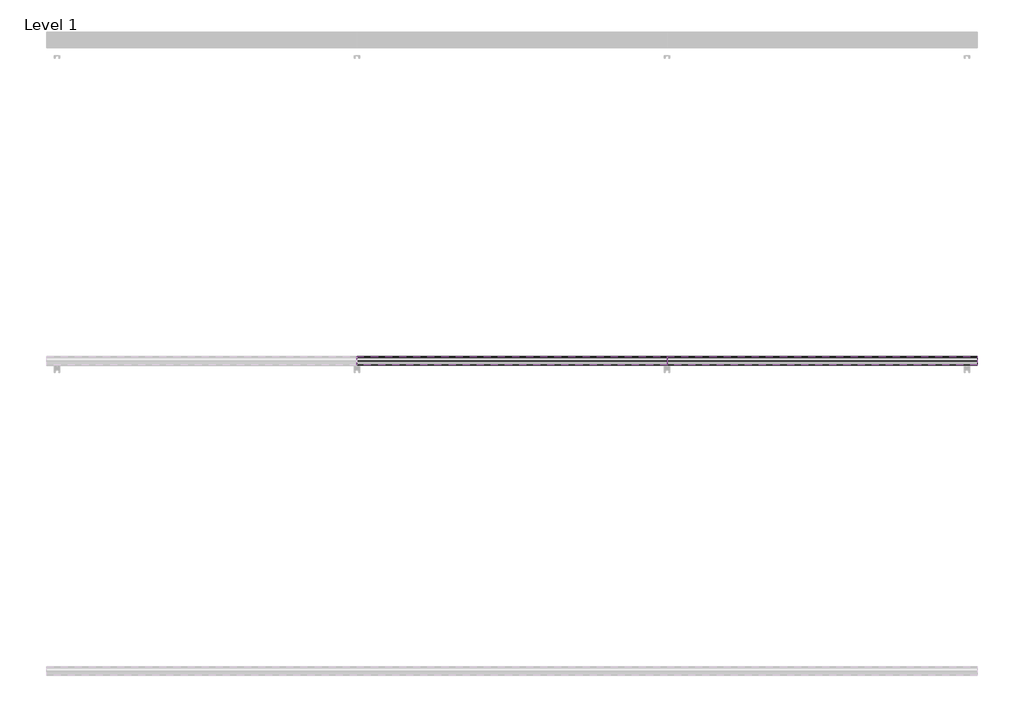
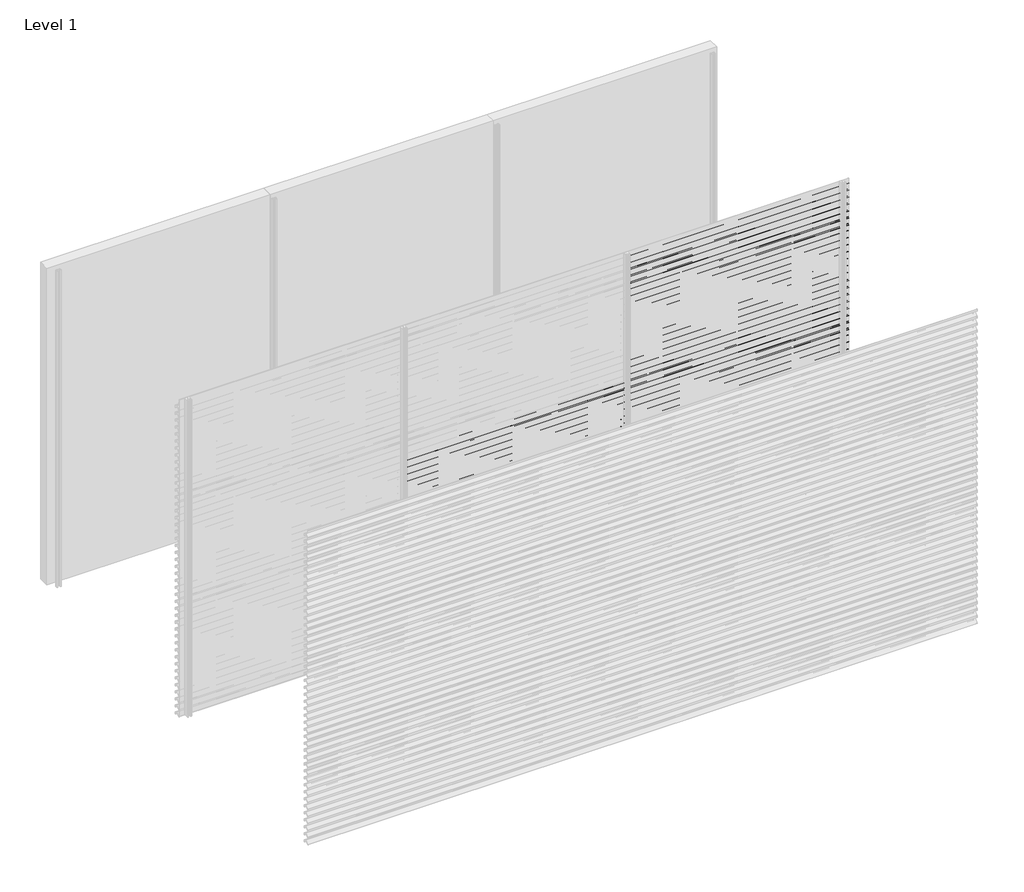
# One storey, part 22 of 27: 71 proxies.
"""IFC4 building model written with IfcOpenShell, lengths in millimetres."""

from ifc_helpers import new_model, si_unit, frame, origin, place, context, project, spatial, polyline, outline, extrude, element, save

model = new_model("IFC4")

# Units and contexts
model_context = context("Model", 3, world=origin())
ifc_project = project(units=[si_unit("LENGTHUNIT", "METRE", prefix="MILLI")], contexts=[model_context])

# Site, building, storey
site = spatial("IfcSite", under=ifc_project)
building = spatial("IfcBuilding", under=site)
storey = spatial("IfcBuildingStorey", under=building, Name="Level 1", Elevation=0.0)

# Proxies
placement = place(None, origin())
element("IfcBuildingElementProxy", 1, Name="Wall Sweeps", at=placement, inside=storey, context=model_context, shape_type="SweptSolid", body=[
    extrude(outline(polyline([(-11943.0, 1725.2), (-11943.0, 1705.5), (-11944.25, 1706.5866084), (-11944.25, 1724.4872415), (-11963.0322086, 1737.6010889), (-11995.1332975, 1705.5), (-11996.0525363, 1706.4192388), (-11964.1148087, 1738.3569665), (-11998.0, 1762.0158044), (-11998.0, 1782.0), (-11996.75, 1782.0), (-11996.75, 1762.7285629), (-11943.0, 1725.2)])), frame((2000.0, 0.0, 0.0), z_axis=(1.0, 0.0, 0.0), x_axis=(0.0, 1.0, 0.0)), (0.0, 0.0, 1.0), 2000.0),
])
element("IfcBuildingElementProxy", 2, Name="Wall Sweeps", at=placement, inside=storey, context=model_context, shape_type="SweptSolid", body=[
    extrude(outline(polyline([(-11943.0, 1659.2), (-11943.0, 1639.5), (-11944.25, 1640.5866084), (-11944.25, 1658.4872415), (-11963.0322086, 1671.6010889), (-11995.1332975, 1639.5), (-11996.0525363, 1640.4192388), (-11964.1148087, 1672.3569665), (-11998.0, 1696.0158044), (-11998.0, 1716.0), (-11996.75, 1716.0), (-11996.75, 1696.7285629), (-11943.0, 1659.2)])), frame((2000.0, 0.0, 0.0), z_axis=(1.0, 0.0, 0.0), x_axis=(0.0, 1.0, 0.0)), (0.0, 0.0, 1.0), 2000.0),
])
element("IfcBuildingElementProxy", 3, Name="Wall Sweeps", at=placement, inside=storey, context=model_context, shape_type="SweptSolid", body=[
    extrude(outline(polyline([(-11943.0, 1593.2), (-11943.0, 1573.5), (-11944.25, 1574.5866084), (-11944.25, 1592.4872415), (-11963.0322086, 1605.6010889), (-11995.1332975, 1573.5), (-11996.0525363, 1574.4192388), (-11964.1148087, 1606.3569665), (-11998.0, 1630.0158044), (-11998.0, 1650.0), (-11996.75, 1650.0), (-11996.75, 1630.7285629), (-11943.0, 1593.2)])), frame((2000.0, 0.0, 0.0), z_axis=(1.0, 0.0, 0.0), x_axis=(0.0, 1.0, 0.0)), (0.0, 0.0, 1.0), 2000.0),
])
element("IfcBuildingElementProxy", 4, Name="Wall Sweeps", at=placement, inside=storey, context=model_context, shape_type="SweptSolid", body=[
    extrude(outline(polyline([(-11943.0, 1527.2), (-11943.0, 1507.5), (-11944.25, 1508.5866084), (-11944.25, 1526.4872415), (-11963.0322086, 1539.6010889), (-11995.1332975, 1507.5), (-11996.0525363, 1508.4192388), (-11964.1148087, 1540.3569665), (-11998.0, 1564.0158044), (-11998.0, 1584.0), (-11996.75, 1584.0), (-11996.75, 1564.7285629), (-11943.0, 1527.2)])), frame((2000.0, 0.0, 0.0), z_axis=(1.0, 0.0, 0.0), x_axis=(0.0, 1.0, 0.0)), (0.0, 0.0, 1.0), 2000.0),
])
element("IfcBuildingElementProxy", 5, Name="Wall Sweeps", at=placement, inside=storey, context=model_context, shape_type="SweptSolid", body=[
    extrude(outline(polyline([(-11943.0, 1461.2), (-11943.0, 1441.5), (-11944.25, 1442.5866084), (-11944.25, 1460.4872415), (-11963.0322086, 1473.6010889), (-11995.1332975, 1441.5), (-11996.0525363, 1442.4192388), (-11964.1148087, 1474.3569665), (-11998.0, 1498.0158044), (-11998.0, 1518.0), (-11996.75, 1518.0), (-11996.75, 1498.7285629), (-11943.0, 1461.2)])), frame((2000.0, 0.0, 0.0), z_axis=(1.0, 0.0, 0.0), x_axis=(0.0, 1.0, 0.0)), (0.0, 0.0, 1.0), 2000.0),
])
element("IfcBuildingElementProxy", 6, Name="Wall Sweeps", at=placement, inside=storey, context=model_context, shape_type="SweptSolid", body=[
    extrude(outline(polyline([(-11943.0, 1395.2), (-11943.0, 1375.5), (-11944.25, 1376.5866084), (-11944.25, 1394.4872415), (-11963.0322086, 1407.6010889), (-11995.1332975, 1375.5), (-11996.0525363, 1376.4192388), (-11964.1148087, 1408.3569665), (-11998.0, 1432.0158044), (-11998.0, 1452.0), (-11996.75, 1452.0), (-11996.75, 1432.7285629), (-11943.0, 1395.2)])), frame((2000.0, 0.0, 0.0), z_axis=(1.0, 0.0, 0.0), x_axis=(0.0, 1.0, 0.0)), (0.0, 0.0, 1.0), 2000.0),
])
element("IfcBuildingElementProxy", 7, Name="Wall Sweeps", at=placement, inside=storey, context=model_context, shape_type="SweptSolid", body=[
    extrude(outline(polyline([(-11943.0, 1329.2), (-11943.0, 1309.5), (-11944.25, 1310.5866084), (-11944.25, 1328.4872415), (-11963.0322086, 1341.6010889), (-11995.1332975, 1309.5), (-11996.0525363, 1310.4192388), (-11964.1148087, 1342.3569665), (-11998.0, 1366.0158044), (-11998.0, 1386.0), (-11996.75, 1386.0), (-11996.75, 1366.7285629), (-11943.0, 1329.2)])), frame((2000.0, 0.0, 0.0), z_axis=(1.0, 0.0, 0.0), x_axis=(0.0, 1.0, 0.0)), (0.0, 0.0, 1.0), 2000.0),
])
element("IfcBuildingElementProxy", 8, Name="Wall Sweeps", at=placement, inside=storey, context=model_context, shape_type="SweptSolid", body=[
    extrude(outline(polyline([(-11943.0, 1263.2), (-11943.0, 1243.5), (-11944.25, 1244.5866084), (-11944.25, 1262.4872415), (-11963.0322086, 1275.6010889), (-11995.1332975, 1243.5), (-11996.0525363, 1244.4192388), (-11964.1148087, 1276.3569665), (-11998.0, 1300.0158044), (-11998.0, 1320.0), (-11996.75, 1320.0), (-11996.75, 1300.7285629), (-11943.0, 1263.2)])), frame((2000.0, 0.0, 0.0), z_axis=(1.0, 0.0, 0.0), x_axis=(0.0, 1.0, 0.0)), (0.0, 0.0, 1.0), 2000.0),
])
element("IfcBuildingElementProxy", 9, Name="Wall Sweeps", at=placement, inside=storey, context=model_context, shape_type="SweptSolid", body=[
    extrude(outline(polyline([(-11943.0, 1197.2), (-11943.0, 1177.5), (-11944.25, 1178.5866084), (-11944.25, 1196.4872415), (-11963.0322086, 1209.6010889), (-11995.1332975, 1177.5), (-11996.0525363, 1178.4192388), (-11964.1148087, 1210.3569665), (-11998.0, 1234.0158044), (-11998.0, 1254.0), (-11996.75, 1254.0), (-11996.75, 1234.7285629), (-11943.0, 1197.2)])), frame((2000.0, 0.0, 0.0), z_axis=(1.0, 0.0, 0.0), x_axis=(0.0, 1.0, 0.0)), (0.0, 0.0, 1.0), 2000.0),
])
element("IfcBuildingElementProxy", 10, Name="Wall Sweeps", at=placement, inside=storey, context=model_context, shape_type="SweptSolid", body=[
    extrude(outline(polyline([(-11943.0, 1131.2), (-11943.0, 1111.5), (-11944.25, 1112.5866084), (-11944.25, 1130.4872415), (-11963.0322086, 1143.6010889), (-11995.1332975, 1111.5), (-11996.0525363, 1112.4192388), (-11964.1148087, 1144.3569665), (-11998.0, 1168.0158044), (-11998.0, 1188.0), (-11996.75, 1188.0), (-11996.75, 1168.7285629), (-11943.0, 1131.2)])), frame((2000.0, 0.0, 0.0), z_axis=(1.0, 0.0, 0.0), x_axis=(0.0, 1.0, 0.0)), (0.0, 0.0, 1.0), 2000.0),
])
element("IfcBuildingElementProxy", 11, Name="Wall Sweeps", at=placement, inside=storey, context=model_context, shape_type="SweptSolid", body=[
    extrude(outline(polyline([(-11943.0, 1065.2), (-11943.0, 1045.5), (-11944.25, 1046.5866084), (-11944.25, 1064.4872415), (-11963.0322086, 1077.6010889), (-11995.1332975, 1045.5), (-11996.0525363, 1046.4192388), (-11964.1148087, 1078.3569665), (-11998.0, 1102.0158044), (-11998.0, 1122.0), (-11996.75, 1122.0), (-11996.75, 1102.7285629), (-11943.0, 1065.2)])), frame((2000.0, 0.0, 0.0), z_axis=(1.0, 0.0, 0.0), x_axis=(0.0, 1.0, 0.0)), (0.0, 0.0, 1.0), 2000.0),
])
element("IfcBuildingElementProxy", 12, Name="Wall Sweeps", at=placement, inside=storey, context=model_context, shape_type="SweptSolid", body=[
    extrude(outline(polyline([(-11943.0, 999.2), (-11943.0, 979.5), (-11944.25, 980.5866084), (-11944.25, 998.4872415), (-11963.0322086, 1011.6010889), (-11995.1332975, 979.5), (-11996.0525363, 980.4192388), (-11964.1148087, 1012.3569665), (-11998.0, 1036.0158044), (-11998.0, 1056.0), (-11996.75, 1056.0), (-11996.75, 1036.7285629), (-11943.0, 999.2)])), frame((2000.0, 0.0, 0.0), z_axis=(1.0, 0.0, 0.0), x_axis=(0.0, 1.0, 0.0)), (0.0, 0.0, 1.0), 2000.0),
])
element("IfcBuildingElementProxy", 13, Name="Wall Sweeps", at=placement, inside=storey, context=model_context, shape_type="SweptSolid", body=[
    extrude(outline(polyline([(-11943.0, 933.2), (-11943.0, 913.5), (-11944.25, 914.5866084), (-11944.25, 932.4872415), (-11963.0322086, 945.6010889), (-11995.1332975, 913.5), (-11996.0525363, 914.4192388), (-11964.1148087, 946.3569665), (-11998.0, 970.0158044), (-11998.0, 990.0), (-11996.75, 990.0), (-11996.75, 970.7285629), (-11943.0, 933.2)])), frame((2000.0, 0.0, 0.0), z_axis=(1.0, 0.0, 0.0), x_axis=(0.0, 1.0, 0.0)), (0.0, 0.0, 1.0), 2000.0),
])
element("IfcBuildingElementProxy", 14, Name="Wall Sweeps", at=placement, inside=storey, context=model_context, shape_type="SweptSolid", body=[
    extrude(outline(polyline([(-11943.0, 867.2), (-11943.0, 847.5), (-11944.25, 848.5866084), (-11944.25, 866.4872415), (-11963.0322086, 879.6010889), (-11995.1332975, 847.5), (-11996.0525363, 848.4192388), (-11964.1148087, 880.3569665), (-11998.0, 904.0158044), (-11998.0, 924.0), (-11996.75, 924.0), (-11996.75, 904.7285629), (-11943.0, 867.2)])), frame((2000.0, 0.0, 0.0), z_axis=(1.0, 0.0, 0.0), x_axis=(0.0, 1.0, 0.0)), (0.0, 0.0, 1.0), 2000.0),
])
element("IfcBuildingElementProxy", 15, Name="Wall Sweeps", at=placement, inside=storey, context=model_context, shape_type="SweptSolid", body=[
    extrude(outline(polyline([(-11943.0, 801.2), (-11943.0, 781.5), (-11944.25, 782.5866084), (-11944.25, 800.4872415), (-11963.0322086, 813.6010889), (-11995.1332975, 781.5), (-11996.0525363, 782.4192388), (-11964.1148087, 814.3569665), (-11998.0, 838.0158044), (-11998.0, 858.0), (-11996.75, 858.0), (-11996.75, 838.7285629), (-11943.0, 801.2)])), frame((2000.0, 0.0, 0.0), z_axis=(1.0, 0.0, 0.0), x_axis=(0.0, 1.0, 0.0)), (0.0, 0.0, 1.0), 2000.0),
])
element("IfcBuildingElementProxy", 16, Name="Wall Sweeps", at=placement, inside=storey, context=model_context, shape_type="SweptSolid", body=[
    extrude(outline(polyline([(-11943.0, 735.2), (-11943.0, 715.5), (-11944.25, 716.5866084), (-11944.25, 734.4872415), (-11963.0322086, 747.6010889), (-11995.1332975, 715.5), (-11996.0525363, 716.4192388), (-11964.1148087, 748.3569665), (-11998.0, 772.0158044), (-11998.0, 792.0), (-11996.75, 792.0), (-11996.75, 772.7285629), (-11943.0, 735.2)])), frame((2000.0, 0.0, 0.0), z_axis=(1.0, 0.0, 0.0), x_axis=(0.0, 1.0, 0.0)), (0.0, 0.0, 1.0), 2000.0),
])
element("IfcBuildingElementProxy", 17, Name="Wall Sweeps", at=placement, inside=storey, context=model_context, shape_type="SweptSolid", body=[
    extrude(outline(polyline([(-11943.0, 669.2), (-11943.0, 649.5), (-11944.25, 650.5866084), (-11944.25, 668.4872415), (-11963.0322086, 681.6010889), (-11995.1332975, 649.5), (-11996.0525363, 650.4192388), (-11964.1148087, 682.3569665), (-11998.0, 706.0158044), (-11998.0, 726.0), (-11996.75, 726.0), (-11996.75, 706.7285629), (-11943.0, 669.2)])), frame((2000.0, 0.0, 0.0), z_axis=(1.0, 0.0, 0.0), x_axis=(0.0, 1.0, 0.0)), (0.0, 0.0, 1.0), 2000.0),
])
element("IfcBuildingElementProxy", 18, Name="Wall Sweeps", at=placement, inside=storey, context=model_context, shape_type="SweptSolid", body=[
    extrude(outline(polyline([(-11943.0, 603.2), (-11943.0, 583.5), (-11944.25, 584.5866084), (-11944.25, 602.4872415), (-11963.0322086, 615.6010889), (-11995.1332975, 583.5), (-11996.0525363, 584.4192388), (-11964.1148087, 616.3569665), (-11998.0, 640.0158044), (-11998.0, 660.0), (-11996.75, 660.0), (-11996.75, 640.7285629), (-11943.0, 603.2)])), frame((2000.0, 0.0, 0.0), z_axis=(1.0, 0.0, 0.0), x_axis=(0.0, 1.0, 0.0)), (0.0, 0.0, 1.0), 2000.0),
])
element("IfcBuildingElementProxy", 19, Name="Wall Sweeps", at=placement, inside=storey, context=model_context, shape_type="SweptSolid", body=[
    extrude(outline(polyline([(-11943.0, 537.2), (-11943.0, 517.5), (-11944.25, 518.5866084), (-11944.25, 536.4872415), (-11963.0322086, 549.6010889), (-11995.1332975, 517.5), (-11996.0525363, 518.4192388), (-11964.1148087, 550.3569665), (-11998.0, 574.0158044), (-11998.0, 594.0), (-11996.75, 594.0), (-11996.75, 574.7285629), (-11943.0, 537.2)])), frame((2000.0, 0.0, 0.0), z_axis=(1.0, 0.0, 0.0), x_axis=(0.0, 1.0, 0.0)), (0.0, 0.0, 1.0), 2000.0),
])
element("IfcBuildingElementProxy", 20, Name="Wall Sweeps", at=placement, inside=storey, context=model_context, shape_type="SweptSolid", body=[
    extrude(outline(polyline([(-11943.0, 471.2), (-11943.0, 451.5), (-11944.25, 452.5866084), (-11944.25, 470.4872415), (-11963.0322086, 483.6010889), (-11995.1332975, 451.5), (-11996.0525363, 452.4192388), (-11964.1148087, 484.3569665), (-11998.0, 508.0158044), (-11998.0, 528.0), (-11996.75, 528.0), (-11996.75, 508.7285629), (-11943.0, 471.2)])), frame((2000.0, 0.0, 0.0), z_axis=(1.0, 0.0, 0.0), x_axis=(0.0, 1.0, 0.0)), (0.0, 0.0, 1.0), 2000.0),
])
element("IfcBuildingElementProxy", 21, Name="Wall Sweeps", at=placement, inside=storey, context=model_context, shape_type="SweptSolid", body=[
    extrude(outline(polyline([(-11943.0, 405.2), (-11943.0, 385.5), (-11944.25, 386.5866084), (-11944.25, 404.4872415), (-11963.0322086, 417.6010889), (-11995.1332975, 385.5), (-11996.0525363, 386.4192388), (-11964.1148087, 418.3569665), (-11998.0, 442.0158044), (-11998.0, 462.0), (-11996.75, 462.0), (-11996.75, 442.7285629), (-11943.0, 405.2)])), frame((2000.0, 0.0, 0.0), z_axis=(1.0, 0.0, 0.0), x_axis=(0.0, 1.0, 0.0)), (0.0, 0.0, 1.0), 2000.0),
])
element("IfcBuildingElementProxy", 22, Name="Wall Sweeps", at=placement, inside=storey, context=model_context, shape_type="SweptSolid", body=[
    extrude(outline(polyline([(-11943.0, 339.2), (-11943.0, 319.5), (-11944.25, 320.5866084), (-11944.25, 338.4872415), (-11963.0322086, 351.6010889), (-11995.1332975, 319.5), (-11996.0525363, 320.4192388), (-11964.1148087, 352.3569665), (-11998.0, 376.0158044), (-11998.0, 396.0), (-11996.75, 396.0), (-11996.75, 376.7285629), (-11943.0, 339.2)])), frame((2000.0, 0.0, 0.0), z_axis=(1.0, 0.0, 0.0), x_axis=(0.0, 1.0, 0.0)), (0.0, 0.0, 1.0), 2000.0),
])
element("IfcBuildingElementProxy", 23, Name="Wall Sweeps", at=placement, inside=storey, context=model_context, shape_type="SweptSolid", body=[
    extrude(outline(polyline([(-11943.0, 273.2), (-11943.0, 253.5), (-11944.25, 254.5866084), (-11944.25, 272.4872415), (-11963.0322086, 285.6010889), (-11995.1332975, 253.5), (-11996.0525363, 254.4192388), (-11964.1148087, 286.3569665), (-11998.0, 310.0158044), (-11998.0, 330.0), (-11996.75, 330.0), (-11996.75, 310.7285629), (-11943.0, 273.2)])), frame((2000.0, 0.0, 0.0), z_axis=(1.0, 0.0, 0.0), x_axis=(0.0, 1.0, 0.0)), (0.0, 0.0, 1.0), 2000.0),
])
element("IfcBuildingElementProxy", 24, Name="Wall Sweeps", at=placement, inside=storey, context=model_context, shape_type="SweptSolid", body=[
    extrude(outline(polyline([(-11943.0, 207.2), (-11943.0, 187.5), (-11944.25, 188.5866084), (-11944.25, 206.4872415), (-11963.0322086, 219.6010889), (-11995.1332975, 187.5), (-11996.0525363, 188.4192388), (-11964.1148087, 220.3569665), (-11998.0, 244.0158044), (-11998.0, 264.0), (-11996.75, 264.0), (-11996.75, 244.7285629), (-11943.0, 207.2)])), frame((2000.0, 0.0, 0.0), z_axis=(1.0, 0.0, 0.0), x_axis=(0.0, 1.0, 0.0)), (0.0, 0.0, 1.0), 2000.0),
])
element("IfcBuildingElementProxy", 25, Name="Wall Sweeps", at=placement, inside=storey, context=model_context, shape_type="SweptSolid", body=[
    extrude(outline(polyline([(-11943.0, 141.2), (-11943.0, 121.5), (-11944.25, 122.5866084), (-11944.25, 140.4872415), (-11963.0322086, 153.6010889), (-11995.1332975, 121.5), (-11996.0525363, 122.4192388), (-11964.1148087, 154.3569665), (-11998.0, 178.0158044), (-11998.0, 198.0), (-11996.75, 198.0), (-11996.75, 178.7285629), (-11943.0, 141.2)])), frame((2000.0, 0.0, 0.0), z_axis=(1.0, 0.0, 0.0), x_axis=(0.0, 1.0, 0.0)), (0.0, 0.0, 1.0), 2000.0),
])
element("IfcBuildingElementProxy", 26, Name="Wall Sweeps", at=placement, inside=storey, context=model_context, shape_type="SweptSolid", body=[
    extrude(outline(polyline([(-11943.0, 75.2), (-11943.0, 55.5), (-11944.25, 56.5866084), (-11944.25, 74.4872415), (-11963.0322086, 87.6010889), (-11995.1332975, 55.5), (-11996.0525363, 56.4192388), (-11964.1148087, 88.3569665), (-11998.0, 112.0158044), (-11998.0, 132.0), (-11996.75, 132.0), (-11996.75, 112.7285629), (-11943.0, 75.2)])), frame((2000.0, 0.0, 0.0), z_axis=(1.0, 0.0, 0.0), x_axis=(0.0, 1.0, 0.0)), (0.0, 0.0, 1.0), 2000.0),
])
element("IfcBuildingElementProxy", 27, Name="Wall Sweeps", at=placement, inside=storey, context=model_context, shape_type="SweptSolid", body=[
    extrude(outline(polyline([(-11943.0, 9.2), (-11943.0, -10.5), (-11944.25, -9.4133916), (-11944.25, 8.4872415), (-11963.0322086, 21.6010889), (-11995.1332975, -10.5), (-11996.0525363, -9.5807612), (-11964.1148087, 22.3569665), (-11998.0, 46.0158044), (-11998.0, 66.0), (-11996.75, 66.0), (-11996.75, 46.7285629), (-11943.0, 9.2)])), frame((2000.0, 0.0, 0.0), z_axis=(1.0, 0.0, 0.0), x_axis=(0.0, 1.0, 0.0)), (0.0, 0.0, 1.0), 2000.0),
])
element("IfcBuildingElementProxy", 28, Name="Wall Sweeps", at=placement, inside=storey, context=model_context, shape_type="SweptSolid", body=[
    extrude(outline(polyline([(-11943.0, 2913.2), (-11943.0, 2893.5), (-11944.25, 2894.5866084), (-11944.25, 2912.4872415), (-11963.0322086, 2925.6010889), (-11995.1332975, 2893.5), (-11996.0525363, 2894.4192388), (-11964.1148087, 2926.3569665), (-11998.0, 2950.0158044), (-11998.0, 2970.0), (-11996.75, 2970.0), (-11996.75, 2950.7285629), (-11943.0, 2913.2)])), frame((4000.0, 0.0, 0.0), z_axis=(1.0, 0.0, 0.0), x_axis=(0.0, 1.0, 0.0)), (0.0, 0.0, 1.0), 2000.0),
])
element("IfcBuildingElementProxy", 29, Name="Wall Sweeps", at=placement, inside=storey, context=model_context, shape_type="SweptSolid", body=[
    extrude(outline(polyline([(-11943.0, 2847.2), (-11943.0, 2827.5), (-11944.25, 2828.5866084), (-11944.25, 2846.4872415), (-11963.0322086, 2859.6010889), (-11995.1332975, 2827.5), (-11996.0525363, 2828.4192388), (-11964.1148087, 2860.3569665), (-11998.0, 2884.0158044), (-11998.0, 2904.0), (-11996.75, 2904.0), (-11996.75, 2884.7285629), (-11943.0, 2847.2)])), frame((4000.0, 0.0, 0.0), z_axis=(1.0, 0.0, 0.0), x_axis=(0.0, 1.0, 0.0)), (0.0, 0.0, 1.0), 2000.0),
])
element("IfcBuildingElementProxy", 30, Name="Wall Sweeps", at=placement, inside=storey, context=model_context, shape_type="SweptSolid", body=[
    extrude(outline(polyline([(-11943.0, 2781.2), (-11943.0, 2761.5), (-11944.25, 2762.5866084), (-11944.25, 2780.4872415), (-11963.0322086, 2793.6010889), (-11995.1332975, 2761.5), (-11996.0525363, 2762.4192388), (-11964.1148087, 2794.3569665), (-11998.0, 2818.0158044), (-11998.0, 2838.0), (-11996.75, 2838.0), (-11996.75, 2818.7285629), (-11943.0, 2781.2)])), frame((4000.0, 0.0, 0.0), z_axis=(1.0, 0.0, 0.0), x_axis=(0.0, 1.0, 0.0)), (0.0, 0.0, 1.0), 2000.0),
])
element("IfcBuildingElementProxy", 31, Name="Wall Sweeps", at=placement, inside=storey, context=model_context, shape_type="SweptSolid", body=[
    extrude(outline(polyline([(-11943.0, 2715.2), (-11943.0, 2695.5), (-11944.25, 2696.5866084), (-11944.25, 2714.4872415), (-11963.0322086, 2727.6010889), (-11995.1332975, 2695.5), (-11996.0525363, 2696.4192388), (-11964.1148087, 2728.3569665), (-11998.0, 2752.0158044), (-11998.0, 2772.0), (-11996.75, 2772.0), (-11996.75, 2752.7285629), (-11943.0, 2715.2)])), frame((4000.0, 0.0, 0.0), z_axis=(1.0, 0.0, 0.0), x_axis=(0.0, 1.0, 0.0)), (0.0, 0.0, 1.0), 2000.0),
])
element("IfcBuildingElementProxy", 32, Name="Wall Sweeps", at=placement, inside=storey, context=model_context, shape_type="SweptSolid", body=[
    extrude(outline(polyline([(-11943.0, 2649.2), (-11943.0, 2629.5), (-11944.25, 2630.5866084), (-11944.25, 2648.4872415), (-11963.0322086, 2661.6010889), (-11995.1332975, 2629.5), (-11996.0525363, 2630.4192388), (-11964.1148087, 2662.3569665), (-11998.0, 2686.0158044), (-11998.0, 2706.0), (-11996.75, 2706.0), (-11996.75, 2686.7285629), (-11943.0, 2649.2)])), frame((4000.0, 0.0, 0.0), z_axis=(1.0, 0.0, 0.0), x_axis=(0.0, 1.0, 0.0)), (0.0, 0.0, 1.0), 2000.0),
])
element("IfcBuildingElementProxy", 33, Name="Wall Sweeps", at=placement, inside=storey, context=model_context, shape_type="SweptSolid", body=[
    extrude(outline(polyline([(-11943.0, 2583.2), (-11943.0, 2563.5), (-11944.25, 2564.5866084), (-11944.25, 2582.4872415), (-11963.0322086, 2595.6010889), (-11995.1332975, 2563.5), (-11996.0525363, 2564.4192388), (-11964.1148087, 2596.3569665), (-11998.0, 2620.0158044), (-11998.0, 2640.0), (-11996.75, 2640.0), (-11996.75, 2620.7285629), (-11943.0, 2583.2)])), frame((4000.0, 0.0, 0.0), z_axis=(1.0, 0.0, 0.0), x_axis=(0.0, 1.0, 0.0)), (0.0, 0.0, 1.0), 2000.0),
])
element("IfcBuildingElementProxy", 34, Name="Wall Sweeps", at=placement, inside=storey, context=model_context, shape_type="SweptSolid", body=[
    extrude(outline(polyline([(-11943.0, 2517.2), (-11943.0, 2497.5), (-11944.25, 2498.5866084), (-11944.25, 2516.4872415), (-11963.0322086, 2529.6010889), (-11995.1332975, 2497.5), (-11996.0525363, 2498.4192388), (-11964.1148087, 2530.3569665), (-11998.0, 2554.0158044), (-11998.0, 2574.0), (-11996.75, 2574.0), (-11996.75, 2554.7285629), (-11943.0, 2517.2)])), frame((4000.0, 0.0, 0.0), z_axis=(1.0, 0.0, 0.0), x_axis=(0.0, 1.0, 0.0)), (0.0, 0.0, 1.0), 2000.0),
])
element("IfcBuildingElementProxy", 35, Name="Wall Sweeps", at=placement, inside=storey, context=model_context, shape_type="SweptSolid", body=[
    extrude(outline(polyline([(-11943.0, 2451.2), (-11943.0, 2431.5), (-11944.25, 2432.5866084), (-11944.25, 2450.4872415), (-11963.0322086, 2463.6010889), (-11995.1332975, 2431.5), (-11996.0525363, 2432.4192388), (-11964.1148087, 2464.3569665), (-11998.0, 2488.0158044), (-11998.0, 2508.0), (-11996.75, 2508.0), (-11996.75, 2488.7285629), (-11943.0, 2451.2)])), frame((4000.0, 0.0, 0.0), z_axis=(1.0, 0.0, 0.0), x_axis=(0.0, 1.0, 0.0)), (0.0, 0.0, 1.0), 2000.0),
])
element("IfcBuildingElementProxy", 36, Name="Wall Sweeps", at=placement, inside=storey, context=model_context, shape_type="SweptSolid", body=[
    extrude(outline(polyline([(-11943.0, 2385.2), (-11943.0, 2365.5), (-11944.25, 2366.5866084), (-11944.25, 2384.4872415), (-11963.0322086, 2397.6010889), (-11995.1332975, 2365.5), (-11996.0525363, 2366.4192388), (-11964.1148087, 2398.3569665), (-11998.0, 2422.0158044), (-11998.0, 2442.0), (-11996.75, 2442.0), (-11996.75, 2422.7285629), (-11943.0, 2385.2)])), frame((4000.0, 0.0, 0.0), z_axis=(1.0, 0.0, 0.0), x_axis=(0.0, 1.0, 0.0)), (0.0, 0.0, 1.0), 2000.0),
])
element("IfcBuildingElementProxy", 37, Name="Wall Sweeps", at=placement, inside=storey, context=model_context, shape_type="SweptSolid", body=[
    extrude(outline(polyline([(-11943.0, 2319.2), (-11943.0, 2299.5), (-11944.25, 2300.5866084), (-11944.25, 2318.4872415), (-11963.0322086, 2331.6010889), (-11995.1332975, 2299.5), (-11996.0525363, 2300.4192388), (-11964.1148087, 2332.3569665), (-11998.0, 2356.0158044), (-11998.0, 2376.0), (-11996.75, 2376.0), (-11996.75, 2356.7285629), (-11943.0, 2319.2)])), frame((4000.0, 0.0, 0.0), z_axis=(1.0, 0.0, 0.0), x_axis=(0.0, 1.0, 0.0)), (0.0, 0.0, 1.0), 2000.0),
])
element("IfcBuildingElementProxy", 38, Name="Wall Sweeps", at=placement, inside=storey, context=model_context, shape_type="SweptSolid", body=[
    extrude(outline(polyline([(-11943.0, 2253.2), (-11943.0, 2233.5), (-11944.25, 2234.5866084), (-11944.25, 2252.4872415), (-11963.0322086, 2265.6010889), (-11995.1332975, 2233.5), (-11996.0525363, 2234.4192388), (-11964.1148087, 2266.3569665), (-11998.0, 2290.0158044), (-11998.0, 2310.0), (-11996.75, 2310.0), (-11996.75, 2290.7285629), (-11943.0, 2253.2)])), frame((4000.0, 0.0, 0.0), z_axis=(1.0, 0.0, 0.0), x_axis=(0.0, 1.0, 0.0)), (0.0, 0.0, 1.0), 2000.0),
])
element("IfcBuildingElementProxy", 39, Name="Wall Sweeps", at=placement, inside=storey, context=model_context, shape_type="SweptSolid", body=[
    extrude(outline(polyline([(-11943.0, 2187.2), (-11943.0, 2167.5), (-11944.25, 2168.5866084), (-11944.25, 2186.4872415), (-11963.0322086, 2199.6010889), (-11995.1332975, 2167.5), (-11996.0525363, 2168.4192388), (-11964.1148087, 2200.3569665), (-11998.0, 2224.0158044), (-11998.0, 2244.0), (-11996.75, 2244.0), (-11996.75, 2224.7285629), (-11943.0, 2187.2)])), frame((4000.0, 0.0, 0.0), z_axis=(1.0, 0.0, 0.0), x_axis=(0.0, 1.0, 0.0)), (0.0, 0.0, 1.0), 2000.0),
])
element("IfcBuildingElementProxy", 40, Name="Wall Sweeps", at=placement, inside=storey, context=model_context, shape_type="SweptSolid", body=[
    extrude(outline(polyline([(-11943.0, 2121.2), (-11943.0, 2101.5), (-11944.25, 2102.5866084), (-11944.25, 2120.4872415), (-11963.0322086, 2133.6010889), (-11995.1332975, 2101.5), (-11996.0525363, 2102.4192388), (-11964.1148087, 2134.3569665), (-11998.0, 2158.0158044), (-11998.0, 2178.0), (-11996.75, 2178.0), (-11996.75, 2158.7285629), (-11943.0, 2121.2)])), frame((4000.0, 0.0, 0.0), z_axis=(1.0, 0.0, 0.0), x_axis=(0.0, 1.0, 0.0)), (0.0, 0.0, 1.0), 2000.0),
])
element("IfcBuildingElementProxy", 41, Name="Wall Sweeps", at=placement, inside=storey, context=model_context, shape_type="SweptSolid", body=[
    extrude(outline(polyline([(-11943.0, 2055.2), (-11943.0, 2035.5), (-11944.25, 2036.5866084), (-11944.25, 2054.4872415), (-11963.0322086, 2067.6010889), (-11995.1332975, 2035.5), (-11996.0525363, 2036.4192388), (-11964.1148087, 2068.3569665), (-11998.0, 2092.0158044), (-11998.0, 2112.0), (-11996.75, 2112.0), (-11996.75, 2092.7285629), (-11943.0, 2055.2)])), frame((4000.0, 0.0, 0.0), z_axis=(1.0, 0.0, 0.0), x_axis=(0.0, 1.0, 0.0)), (0.0, 0.0, 1.0), 2000.0),
])
element("IfcBuildingElementProxy", 42, Name="Wall Sweeps", at=placement, inside=storey, context=model_context, shape_type="SweptSolid", body=[
    extrude(outline(polyline([(-11943.0, 1989.2), (-11943.0, 1969.5), (-11944.25, 1970.5866084), (-11944.25, 1988.4872415), (-11963.0322086, 2001.6010889), (-11995.1332975, 1969.5), (-11996.0525363, 1970.4192388), (-11964.1148087, 2002.3569665), (-11998.0, 2026.0158044), (-11998.0, 2046.0), (-11996.75, 2046.0), (-11996.75, 2026.7285629), (-11943.0, 1989.2)])), frame((4000.0, 0.0, 0.0), z_axis=(1.0, 0.0, 0.0), x_axis=(0.0, 1.0, 0.0)), (0.0, 0.0, 1.0), 2000.0),
])
element("IfcBuildingElementProxy", 43, Name="Wall Sweeps", at=placement, inside=storey, context=model_context, shape_type="SweptSolid", body=[
    extrude(outline(polyline([(-11943.0, 1923.2), (-11943.0, 1903.5), (-11944.25, 1904.5866084), (-11944.25, 1922.4872415), (-11963.0322086, 1935.6010889), (-11995.1332975, 1903.5), (-11996.0525363, 1904.4192388), (-11964.1148087, 1936.3569665), (-11998.0, 1960.0158044), (-11998.0, 1980.0), (-11996.75, 1980.0), (-11996.75, 1960.7285629), (-11943.0, 1923.2)])), frame((4000.0, 0.0, 0.0), z_axis=(1.0, 0.0, 0.0), x_axis=(0.0, 1.0, 0.0)), (0.0, 0.0, 1.0), 2000.0),
])
element("IfcBuildingElementProxy", 44, Name="Wall Sweeps", at=placement, inside=storey, context=model_context, shape_type="SweptSolid", body=[
    extrude(outline(polyline([(-11943.0, 1857.2), (-11943.0, 1837.5), (-11944.25, 1838.5866084), (-11944.25, 1856.4872415), (-11963.0322086, 1869.6010889), (-11995.1332975, 1837.5), (-11996.0525363, 1838.4192388), (-11964.1148087, 1870.3569665), (-11998.0, 1894.0158044), (-11998.0, 1914.0), (-11996.75, 1914.0), (-11996.75, 1894.7285629), (-11943.0, 1857.2)])), frame((4000.0, 0.0, 0.0), z_axis=(1.0, 0.0, 0.0), x_axis=(0.0, 1.0, 0.0)), (0.0, 0.0, 1.0), 2000.0),
])
element("IfcBuildingElementProxy", 45, Name="Wall Sweeps", at=placement, inside=storey, context=model_context, shape_type="SweptSolid", body=[
    extrude(outline(polyline([(-11943.0, 1791.2), (-11943.0, 1771.5), (-11944.25, 1772.5866084), (-11944.25, 1790.4872415), (-11963.0322086, 1803.6010889), (-11995.1332975, 1771.5), (-11996.0525363, 1772.4192388), (-11964.1148087, 1804.3569665), (-11998.0, 1828.0158044), (-11998.0, 1848.0), (-11996.75, 1848.0), (-11996.75, 1828.7285629), (-11943.0, 1791.2)])), frame((4000.0, 0.0, 0.0), z_axis=(1.0, 0.0, 0.0), x_axis=(0.0, 1.0, 0.0)), (0.0, 0.0, 1.0), 2000.0),
])
element("IfcBuildingElementProxy", 46, Name="Wall Sweeps", at=placement, inside=storey, context=model_context, shape_type="SweptSolid", body=[
    extrude(outline(polyline([(-11943.0, 1725.2), (-11943.0, 1705.5), (-11944.25, 1706.5866084), (-11944.25, 1724.4872415), (-11963.0322086, 1737.6010889), (-11995.1332975, 1705.5), (-11996.0525363, 1706.4192388), (-11964.1148087, 1738.3569665), (-11998.0, 1762.0158044), (-11998.0, 1782.0), (-11996.75, 1782.0), (-11996.75, 1762.7285629), (-11943.0, 1725.2)])), frame((4000.0, 0.0, 0.0), z_axis=(1.0, 0.0, 0.0), x_axis=(0.0, 1.0, 0.0)), (0.0, 0.0, 1.0), 2000.0),
])
element("IfcBuildingElementProxy", 47, Name="Wall Sweeps", at=placement, inside=storey, context=model_context, shape_type="SweptSolid", body=[
    extrude(outline(polyline([(-11943.0, 1659.2), (-11943.0, 1639.5), (-11944.25, 1640.5866084), (-11944.25, 1658.4872415), (-11963.0322086, 1671.6010889), (-11995.1332975, 1639.5), (-11996.0525363, 1640.4192388), (-11964.1148087, 1672.3569665), (-11998.0, 1696.0158044), (-11998.0, 1716.0), (-11996.75, 1716.0), (-11996.75, 1696.7285629), (-11943.0, 1659.2)])), frame((4000.0, 0.0, 0.0), z_axis=(1.0, 0.0, 0.0), x_axis=(0.0, 1.0, 0.0)), (0.0, 0.0, 1.0), 2000.0),
])
element("IfcBuildingElementProxy", 48, Name="Wall Sweeps", at=placement, inside=storey, context=model_context, shape_type="SweptSolid", body=[
    extrude(outline(polyline([(-11943.0, 1593.2), (-11943.0, 1573.5), (-11944.25, 1574.5866084), (-11944.25, 1592.4872415), (-11963.0322086, 1605.6010889), (-11995.1332975, 1573.5), (-11996.0525363, 1574.4192388), (-11964.1148087, 1606.3569665), (-11998.0, 1630.0158044), (-11998.0, 1650.0), (-11996.75, 1650.0), (-11996.75, 1630.7285629), (-11943.0, 1593.2)])), frame((4000.0, 0.0, 0.0), z_axis=(1.0, 0.0, 0.0), x_axis=(0.0, 1.0, 0.0)), (0.0, 0.0, 1.0), 2000.0),
])
element("IfcBuildingElementProxy", 49, Name="Wall Sweeps", at=placement, inside=storey, context=model_context, shape_type="SweptSolid", body=[
    extrude(outline(polyline([(-11943.0, 1527.2), (-11943.0, 1507.5), (-11944.25, 1508.5866084), (-11944.25, 1526.4872415), (-11963.0322086, 1539.6010889), (-11995.1332975, 1507.5), (-11996.0525363, 1508.4192388), (-11964.1148087, 1540.3569665), (-11998.0, 1564.0158044), (-11998.0, 1584.0), (-11996.75, 1584.0), (-11996.75, 1564.7285629), (-11943.0, 1527.2)])), frame((4000.0, 0.0, 0.0), z_axis=(1.0, 0.0, 0.0), x_axis=(0.0, 1.0, 0.0)), (0.0, 0.0, 1.0), 2000.0),
])
element("IfcBuildingElementProxy", 50, Name="Wall Sweeps", at=placement, inside=storey, context=model_context, shape_type="SweptSolid", body=[
    extrude(outline(polyline([(-11943.0, 1461.2), (-11943.0, 1441.5), (-11944.25, 1442.5866084), (-11944.25, 1460.4872415), (-11963.0322086, 1473.6010889), (-11995.1332975, 1441.5), (-11996.0525363, 1442.4192388), (-11964.1148087, 1474.3569665), (-11998.0, 1498.0158044), (-11998.0, 1518.0), (-11996.75, 1518.0), (-11996.75, 1498.7285629), (-11943.0, 1461.2)])), frame((4000.0, 0.0, 0.0), z_axis=(1.0, 0.0, 0.0), x_axis=(0.0, 1.0, 0.0)), (0.0, 0.0, 1.0), 2000.0),
])
element("IfcBuildingElementProxy", 51, Name="Wall Sweeps", at=placement, inside=storey, context=model_context, shape_type="SweptSolid", body=[
    extrude(outline(polyline([(-11943.0, 1395.2), (-11943.0, 1375.5), (-11944.25, 1376.5866084), (-11944.25, 1394.4872415), (-11963.0322086, 1407.6010889), (-11995.1332975, 1375.5), (-11996.0525363, 1376.4192388), (-11964.1148087, 1408.3569665), (-11998.0, 1432.0158044), (-11998.0, 1452.0), (-11996.75, 1452.0), (-11996.75, 1432.7285629), (-11943.0, 1395.2)])), frame((4000.0, 0.0, 0.0), z_axis=(1.0, 0.0, 0.0), x_axis=(0.0, 1.0, 0.0)), (0.0, 0.0, 1.0), 2000.0),
])
element("IfcBuildingElementProxy", 52, Name="Wall Sweeps", at=placement, inside=storey, context=model_context, shape_type="SweptSolid", body=[
    extrude(outline(polyline([(-11943.0, 1329.2), (-11943.0, 1309.5), (-11944.25, 1310.5866084), (-11944.25, 1328.4872415), (-11963.0322086, 1341.6010889), (-11995.1332975, 1309.5), (-11996.0525363, 1310.4192388), (-11964.1148087, 1342.3569665), (-11998.0, 1366.0158044), (-11998.0, 1386.0), (-11996.75, 1386.0), (-11996.75, 1366.7285629), (-11943.0, 1329.2)])), frame((4000.0, 0.0, 0.0), z_axis=(1.0, 0.0, 0.0), x_axis=(0.0, 1.0, 0.0)), (0.0, 0.0, 1.0), 2000.0),
])
element("IfcBuildingElementProxy", 53, Name="Wall Sweeps", at=placement, inside=storey, context=model_context, shape_type="SweptSolid", body=[
    extrude(outline(polyline([(-11943.0, 1263.2), (-11943.0, 1243.5), (-11944.25, 1244.5866084), (-11944.25, 1262.4872415), (-11963.0322086, 1275.6010889), (-11995.1332975, 1243.5), (-11996.0525363, 1244.4192388), (-11964.1148087, 1276.3569665), (-11998.0, 1300.0158044), (-11998.0, 1320.0), (-11996.75, 1320.0), (-11996.75, 1300.7285629), (-11943.0, 1263.2)])), frame((4000.0, 0.0, 0.0), z_axis=(1.0, 0.0, 0.0), x_axis=(0.0, 1.0, 0.0)), (0.0, 0.0, 1.0), 2000.0),
])
element("IfcBuildingElementProxy", 54, Name="Wall Sweeps", at=placement, inside=storey, context=model_context, shape_type="SweptSolid", body=[
    extrude(outline(polyline([(-11943.0, 1197.2), (-11943.0, 1177.5), (-11944.25, 1178.5866084), (-11944.25, 1196.4872415), (-11963.0322086, 1209.6010889), (-11995.1332975, 1177.5), (-11996.0525363, 1178.4192388), (-11964.1148087, 1210.3569665), (-11998.0, 1234.0158044), (-11998.0, 1254.0), (-11996.75, 1254.0), (-11996.75, 1234.7285629), (-11943.0, 1197.2)])), frame((4000.0, 0.0, 0.0), z_axis=(1.0, 0.0, 0.0), x_axis=(0.0, 1.0, 0.0)), (0.0, 0.0, 1.0), 2000.0),
])
element("IfcBuildingElementProxy", 55, Name="Wall Sweeps", at=placement, inside=storey, context=model_context, shape_type="SweptSolid", body=[
    extrude(outline(polyline([(-11943.0, 1131.2), (-11943.0, 1111.5), (-11944.25, 1112.5866084), (-11944.25, 1130.4872415), (-11963.0322086, 1143.6010889), (-11995.1332975, 1111.5), (-11996.0525363, 1112.4192388), (-11964.1148087, 1144.3569665), (-11998.0, 1168.0158044), (-11998.0, 1188.0), (-11996.75, 1188.0), (-11996.75, 1168.7285629), (-11943.0, 1131.2)])), frame((4000.0, 0.0, 0.0), z_axis=(1.0, 0.0, 0.0), x_axis=(0.0, 1.0, 0.0)), (0.0, 0.0, 1.0), 2000.0),
])
element("IfcBuildingElementProxy", 56, Name="Wall Sweeps", at=placement, inside=storey, context=model_context, shape_type="SweptSolid", body=[
    extrude(outline(polyline([(-11943.0, 1065.2), (-11943.0, 1045.5), (-11944.25, 1046.5866084), (-11944.25, 1064.4872415), (-11963.0322086, 1077.6010889), (-11995.1332975, 1045.5), (-11996.0525363, 1046.4192388), (-11964.1148087, 1078.3569665), (-11998.0, 1102.0158044), (-11998.0, 1122.0), (-11996.75, 1122.0), (-11996.75, 1102.7285629), (-11943.0, 1065.2)])), frame((4000.0, 0.0, 0.0), z_axis=(1.0, 0.0, 0.0), x_axis=(0.0, 1.0, 0.0)), (0.0, 0.0, 1.0), 2000.0),
])
element("IfcBuildingElementProxy", 57, Name="Wall Sweeps", at=placement, inside=storey, context=model_context, shape_type="SweptSolid", body=[
    extrude(outline(polyline([(-11943.0, 999.2), (-11943.0, 979.5), (-11944.25, 980.5866084), (-11944.25, 998.4872415), (-11963.0322086, 1011.6010889), (-11995.1332975, 979.5), (-11996.0525363, 980.4192388), (-11964.1148087, 1012.3569665), (-11998.0, 1036.0158044), (-11998.0, 1056.0), (-11996.75, 1056.0), (-11996.75, 1036.7285629), (-11943.0, 999.2)])), frame((4000.0, 0.0, 0.0), z_axis=(1.0, 0.0, 0.0), x_axis=(0.0, 1.0, 0.0)), (0.0, 0.0, 1.0), 2000.0),
])
element("IfcBuildingElementProxy", 58, Name="Wall Sweeps", at=placement, inside=storey, context=model_context, shape_type="SweptSolid", body=[
    extrude(outline(polyline([(-11943.0, 933.2), (-11943.0, 913.5), (-11944.25, 914.5866084), (-11944.25, 932.4872415), (-11963.0322086, 945.6010889), (-11995.1332975, 913.5), (-11996.0525363, 914.4192388), (-11964.1148087, 946.3569665), (-11998.0, 970.0158044), (-11998.0, 990.0), (-11996.75, 990.0), (-11996.75, 970.7285629), (-11943.0, 933.2)])), frame((4000.0, 0.0, 0.0), z_axis=(1.0, 0.0, 0.0), x_axis=(0.0, 1.0, 0.0)), (0.0, 0.0, 1.0), 2000.0),
])
element("IfcBuildingElementProxy", 59, Name="Wall Sweeps", at=placement, inside=storey, context=model_context, shape_type="SweptSolid", body=[
    extrude(outline(polyline([(-11943.0, 867.2), (-11943.0, 847.5), (-11944.25, 848.5866084), (-11944.25, 866.4872415), (-11963.0322086, 879.6010889), (-11995.1332975, 847.5), (-11996.0525363, 848.4192388), (-11964.1148087, 880.3569665), (-11998.0, 904.0158044), (-11998.0, 924.0), (-11996.75, 924.0), (-11996.75, 904.7285629), (-11943.0, 867.2)])), frame((4000.0, 0.0, 0.0), z_axis=(1.0, 0.0, 0.0), x_axis=(0.0, 1.0, 0.0)), (0.0, 0.0, 1.0), 2000.0),
])
element("IfcBuildingElementProxy", 60, Name="Wall Sweeps", at=placement, inside=storey, context=model_context, shape_type="SweptSolid", body=[
    extrude(outline(polyline([(-11943.0, 801.2), (-11943.0, 781.5), (-11944.25, 782.5866084), (-11944.25, 800.4872415), (-11963.0322086, 813.6010889), (-11995.1332975, 781.5), (-11996.0525363, 782.4192388), (-11964.1148087, 814.3569665), (-11998.0, 838.0158044), (-11998.0, 858.0), (-11996.75, 858.0), (-11996.75, 838.7285629), (-11943.0, 801.2)])), frame((4000.0, 0.0, 0.0), z_axis=(1.0, 0.0, 0.0), x_axis=(0.0, 1.0, 0.0)), (0.0, 0.0, 1.0), 2000.0),
])
element("IfcBuildingElementProxy", 61, Name="Wall Sweeps", at=placement, inside=storey, context=model_context, shape_type="SweptSolid", body=[
    extrude(outline(polyline([(-11943.0, 735.2), (-11943.0, 715.5), (-11944.25, 716.5866084), (-11944.25, 734.4872415), (-11963.0322086, 747.6010889), (-11995.1332975, 715.5), (-11996.0525363, 716.4192388), (-11964.1148087, 748.3569665), (-11998.0, 772.0158044), (-11998.0, 792.0), (-11996.75, 792.0), (-11996.75, 772.7285629), (-11943.0, 735.2)])), frame((4000.0, 0.0, 0.0), z_axis=(1.0, 0.0, 0.0), x_axis=(0.0, 1.0, 0.0)), (0.0, 0.0, 1.0), 2000.0),
])
element("IfcBuildingElementProxy", 62, Name="Wall Sweeps", at=placement, inside=storey, context=model_context, shape_type="SweptSolid", body=[
    extrude(outline(polyline([(-11943.0, 669.2), (-11943.0, 649.5), (-11944.25, 650.5866084), (-11944.25, 668.4872415), (-11963.0322086, 681.6010889), (-11995.1332975, 649.5), (-11996.0525363, 650.4192388), (-11964.1148087, 682.3569665), (-11998.0, 706.0158044), (-11998.0, 726.0), (-11996.75, 726.0), (-11996.75, 706.7285629), (-11943.0, 669.2)])), frame((4000.0, 0.0, 0.0), z_axis=(1.0, 0.0, 0.0), x_axis=(0.0, 1.0, 0.0)), (0.0, 0.0, 1.0), 2000.0),
])
element("IfcBuildingElementProxy", 63, Name="Wall Sweeps", at=placement, inside=storey, context=model_context, shape_type="SweptSolid", body=[
    extrude(outline(polyline([(-11943.0, 603.2), (-11943.0, 583.5), (-11944.25, 584.5866084), (-11944.25, 602.4872415), (-11963.0322086, 615.6010889), (-11995.1332975, 583.5), (-11996.0525363, 584.4192388), (-11964.1148087, 616.3569665), (-11998.0, 640.0158044), (-11998.0, 660.0), (-11996.75, 660.0), (-11996.75, 640.7285629), (-11943.0, 603.2)])), frame((4000.0, 0.0, 0.0), z_axis=(1.0, 0.0, 0.0), x_axis=(0.0, 1.0, 0.0)), (0.0, 0.0, 1.0), 2000.0),
])
element("IfcBuildingElementProxy", 64, Name="Wall Sweeps", at=placement, inside=storey, context=model_context, shape_type="SweptSolid", body=[
    extrude(outline(polyline([(-11943.0, 537.2), (-11943.0, 517.5), (-11944.25, 518.5866084), (-11944.25, 536.4872415), (-11963.0322086, 549.6010889), (-11995.1332975, 517.5), (-11996.0525363, 518.4192388), (-11964.1148087, 550.3569665), (-11998.0, 574.0158044), (-11998.0, 594.0), (-11996.75, 594.0), (-11996.75, 574.7285629), (-11943.0, 537.2)])), frame((4000.0, 0.0, 0.0), z_axis=(1.0, 0.0, 0.0), x_axis=(0.0, 1.0, 0.0)), (0.0, 0.0, 1.0), 2000.0),
])
element("IfcBuildingElementProxy", 65, Name="Wall Sweeps", at=placement, inside=storey, context=model_context, shape_type="SweptSolid", body=[
    extrude(outline(polyline([(-11943.0, 471.2), (-11943.0, 451.5), (-11944.25, 452.5866084), (-11944.25, 470.4872415), (-11963.0322086, 483.6010889), (-11995.1332975, 451.5), (-11996.0525363, 452.4192388), (-11964.1148087, 484.3569665), (-11998.0, 508.0158044), (-11998.0, 528.0), (-11996.75, 528.0), (-11996.75, 508.7285629), (-11943.0, 471.2)])), frame((4000.0, 0.0, 0.0), z_axis=(1.0, 0.0, 0.0), x_axis=(0.0, 1.0, 0.0)), (0.0, 0.0, 1.0), 2000.0),
])
element("IfcBuildingElementProxy", 66, Name="Wall Sweeps", at=placement, inside=storey, context=model_context, shape_type="SweptSolid", body=[
    extrude(outline(polyline([(-11943.0, 405.2), (-11943.0, 385.5), (-11944.25, 386.5866084), (-11944.25, 404.4872415), (-11963.0322086, 417.6010889), (-11995.1332975, 385.5), (-11996.0525363, 386.4192388), (-11964.1148087, 418.3569665), (-11998.0, 442.0158044), (-11998.0, 462.0), (-11996.75, 462.0), (-11996.75, 442.7285629), (-11943.0, 405.2)])), frame((4000.0, 0.0, 0.0), z_axis=(1.0, 0.0, 0.0), x_axis=(0.0, 1.0, 0.0)), (0.0, 0.0, 1.0), 2000.0),
])
element("IfcBuildingElementProxy", 67, Name="Wall Sweeps", at=placement, inside=storey, context=model_context, shape_type="SweptSolid", body=[
    extrude(outline(polyline([(-11943.0, 339.2), (-11943.0, 319.5), (-11944.25, 320.5866084), (-11944.25, 338.4872415), (-11963.0322086, 351.6010889), (-11995.1332975, 319.5), (-11996.0525363, 320.4192388), (-11964.1148087, 352.3569665), (-11998.0, 376.0158044), (-11998.0, 396.0), (-11996.75, 396.0), (-11996.75, 376.7285629), (-11943.0, 339.2)])), frame((4000.0, 0.0, 0.0), z_axis=(1.0, 0.0, 0.0), x_axis=(0.0, 1.0, 0.0)), (0.0, 0.0, 1.0), 2000.0),
])
element("IfcBuildingElementProxy", 68, Name="Wall Sweeps", at=placement, inside=storey, context=model_context, shape_type="SweptSolid", body=[
    extrude(outline(polyline([(-11943.0, 273.2), (-11943.0, 253.5), (-11944.25, 254.5866084), (-11944.25, 272.4872415), (-11963.0322086, 285.6010889), (-11995.1332975, 253.5), (-11996.0525363, 254.4192388), (-11964.1148087, 286.3569665), (-11998.0, 310.0158044), (-11998.0, 330.0), (-11996.75, 330.0), (-11996.75, 310.7285629), (-11943.0, 273.2)])), frame((4000.0, 0.0, 0.0), z_axis=(1.0, 0.0, 0.0), x_axis=(0.0, 1.0, 0.0)), (0.0, 0.0, 1.0), 2000.0),
])
element("IfcBuildingElementProxy", 69, Name="Wall Sweeps", at=placement, inside=storey, context=model_context, shape_type="SweptSolid", body=[
    extrude(outline(polyline([(-11943.0, 207.2), (-11943.0, 187.5), (-11944.25, 188.5866084), (-11944.25, 206.4872415), (-11963.0322086, 219.6010889), (-11995.1332975, 187.5), (-11996.0525363, 188.4192388), (-11964.1148087, 220.3569665), (-11998.0, 244.0158044), (-11998.0, 264.0), (-11996.75, 264.0), (-11996.75, 244.7285629), (-11943.0, 207.2)])), frame((4000.0, 0.0, 0.0), z_axis=(1.0, 0.0, 0.0), x_axis=(0.0, 1.0, 0.0)), (0.0, 0.0, 1.0), 2000.0),
])
element("IfcBuildingElementProxy", 70, Name="Wall Sweeps", at=placement, inside=storey, context=model_context, shape_type="SweptSolid", body=[
    extrude(outline(polyline([(-11943.0, 141.2), (-11943.0, 121.5), (-11944.25, 122.5866084), (-11944.25, 140.4872415), (-11963.0322086, 153.6010889), (-11995.1332975, 121.5), (-11996.0525363, 122.4192388), (-11964.1148087, 154.3569665), (-11998.0, 178.0158044), (-11998.0, 198.0), (-11996.75, 198.0), (-11996.75, 178.7285629), (-11943.0, 141.2)])), frame((4000.0, 0.0, 0.0), z_axis=(1.0, 0.0, 0.0), x_axis=(0.0, 1.0, 0.0)), (0.0, 0.0, 1.0), 2000.0),
])
element("IfcBuildingElementProxy", 71, Name="Wall Sweeps", at=placement, inside=storey, context=model_context, shape_type="SweptSolid", body=[
    extrude(outline(polyline([(-11943.0, 75.2), (-11943.0, 55.5), (-11944.25, 56.5866084), (-11944.25, 74.4872415), (-11963.0322086, 87.6010889), (-11995.1332975, 55.5), (-11996.0525363, 56.4192388), (-11964.1148087, 88.3569665), (-11998.0, 112.0158044), (-11998.0, 132.0), (-11996.75, 132.0), (-11996.75, 112.7285629), (-11943.0, 75.2)])), frame((4000.0, 0.0, 0.0), z_axis=(1.0, 0.0, 0.0), x_axis=(0.0, 1.0, 0.0)), (0.0, 0.0, 1.0), 2000.0),
])

save(model, "model.ifc")
